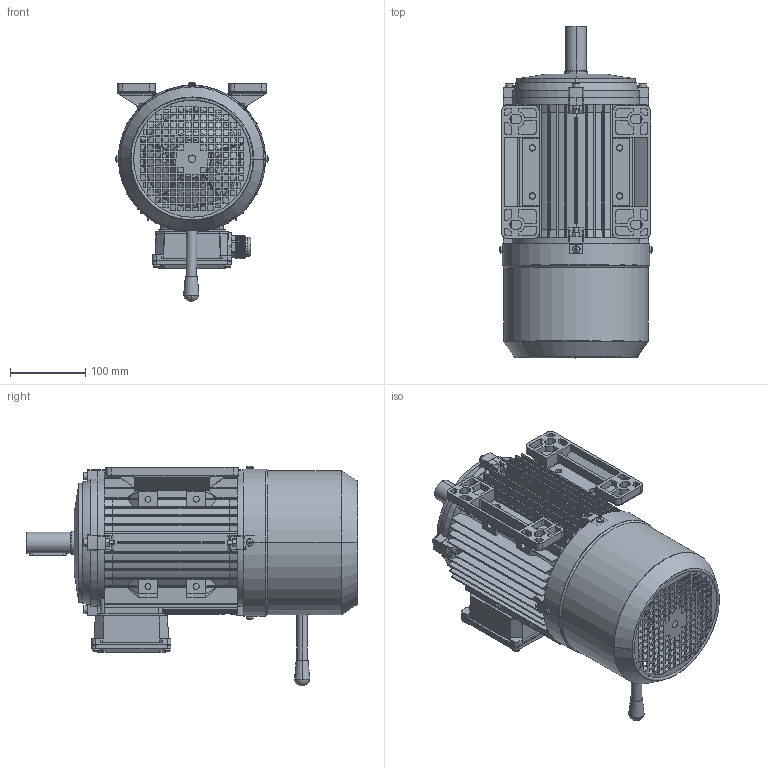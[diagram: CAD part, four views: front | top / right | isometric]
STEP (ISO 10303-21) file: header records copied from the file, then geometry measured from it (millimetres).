
FILE_DESCRIPTION (( 'STEP AP214' ), '1' );
FILE_NAME ('BCL0150.10I603.11.STEP', '2020-04-22T16:18:52', ( '' ), ( '' ), 'SwSTEP 2.0', 'SolidWorks 2019', '' );
FILE_SCHEMA (( 'AUTOMOTIVE_DESIGN' ));
Length unit declared in the file: millimetre
Products named in the file (1): BCL0150.10I603.11
Bounding box: 203.28 x 440.74 x 291.62 mm (x, y, z)
Volume: 1727777.3 mm3; surface area: 1052054.4 mm2
Topology: 39 solids, 39 shells, 3923 faces, 10466 edges, 6689 vertices
Faces by surface type: plane 2684, cylinder 730, cone 286, torus 137, bspline 66, sphere 20
Entity records: 133989 total; most frequent: CARTESIAN_POINT 36628, ORIENTED_EDGE 20880, DIRECTION 18978, EDGE_CURVE 10440, LINE 6752, VECTOR 6752, VERTEX_POINT 6687, AXIS2_PLACEMENT_3D 6113
